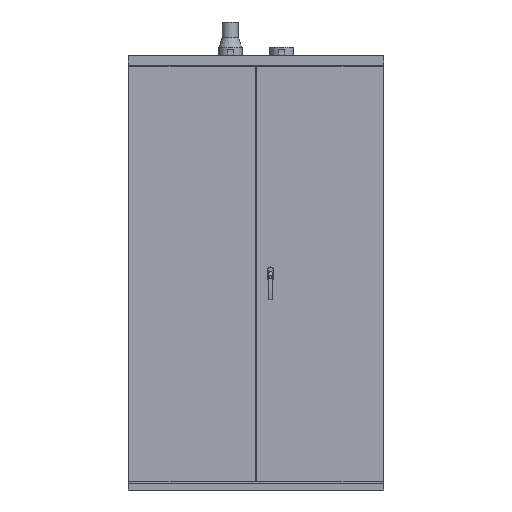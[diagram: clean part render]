
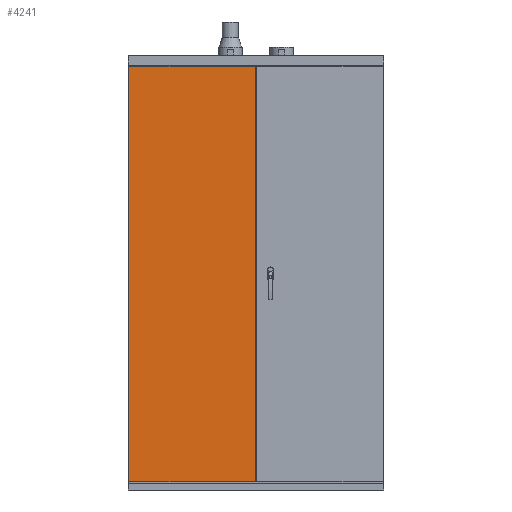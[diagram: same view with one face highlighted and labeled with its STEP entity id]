
A CAD part, front view. The second image highlights one B-rep face of the part: STEP entity #4241.
In plain terms, the highlighted planar face has unit normal (0, -1, 0).
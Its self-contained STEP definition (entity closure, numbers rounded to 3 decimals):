
#248=LINE('',#5839,#605);
#249=LINE('',#5842,#606);
#250=LINE('',#5844,#607);
#251=LINE('',#5846,#608);
#605=VECTOR('',#4884,1000.);
#606=VECTOR('',#4885,1000.);
#607=VECTOR('',#4886,1000.);
#608=VECTOR('',#4887,1000.);
#1047=ORIENTED_EDGE('',*,*,#1834,.T.);
#1048=ORIENTED_EDGE('',*,*,#1835,.T.);
#1049=ORIENTED_EDGE('',*,*,#1836,.T.);
#1050=ORIENTED_EDGE('',*,*,#1837,.T.);
#1834=EDGE_CURVE('',#2240,#2241,#248,.T.);
#1835=EDGE_CURVE('',#2241,#2242,#249,.T.);
#1836=EDGE_CURVE('',#2242,#2243,#250,.T.);
#1837=EDGE_CURVE('',#2243,#2240,#251,.T.);
#2240=VERTEX_POINT('',#5840);
#2241=VERTEX_POINT('',#5841);
#2242=VERTEX_POINT('',#5843);
#2243=VERTEX_POINT('',#5845);
#2456=EDGE_LOOP('',(#1047,#1048,#1049,#1050));
#2667=FACE_BOUND('',#2456,.T.);
#2844=PLANE('',#4443);
#4241=ADVANCED_FACE('',(#2667),#2844,.F.);
#4443=AXIS2_PLACEMENT_3D('',#5838,#4882,#4883);
#4882=DIRECTION('',(0.,1.,0.));
#4883=DIRECTION('',(0.,0.,1.));
#4884=DIRECTION('',(0.,0.,1.));
#4885=DIRECTION('',(-1.,0.,0.));
#4886=DIRECTION('',(0.,0.,-1.));
#4887=DIRECTION('',(1.,0.,0.));
#5838=CARTESIAN_POINT('',(300.,0.,2030.));
#5839=CARTESIAN_POINT('',(595.,0.,38.3));
#5840=CARTESIAN_POINT('',(595.,0.,38.3));
#5841=CARTESIAN_POINT('',(595.,0.,1979.3));
#5842=CARTESIAN_POINT('',(1195.,0.,1979.3));
#5843=CARTESIAN_POINT('',(3.,0.,1979.3));
#5844=CARTESIAN_POINT('',(3.,0.,1979.3));
#5845=CARTESIAN_POINT('',(3.,0.,38.3));
#5846=CARTESIAN_POINT('',(300.,0.,38.3));
